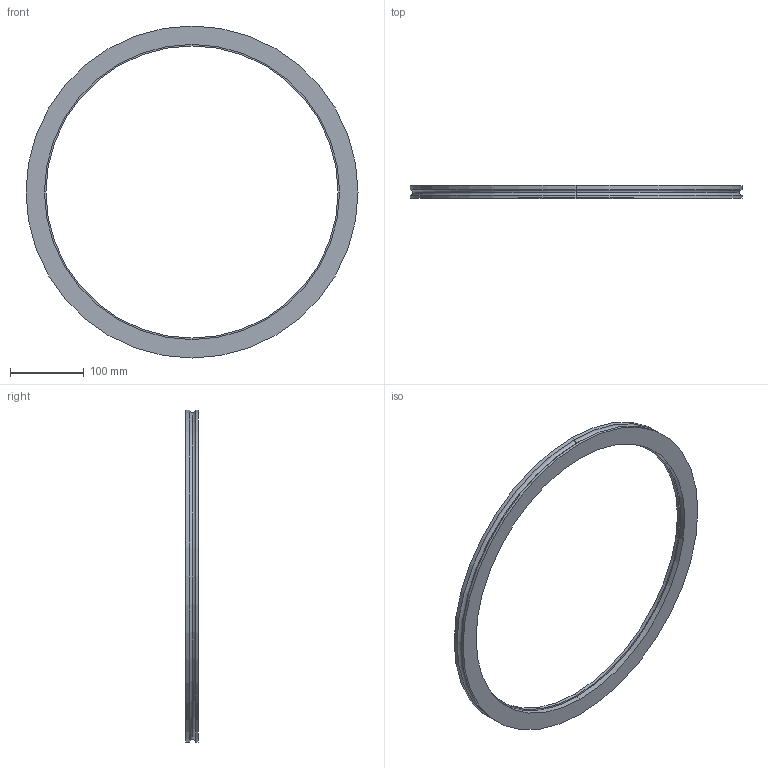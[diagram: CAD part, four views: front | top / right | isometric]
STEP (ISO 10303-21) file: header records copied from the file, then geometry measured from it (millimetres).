
FILE_DESCRIPTION (( 'STEP AP214' ), '1' );
FILE_NAME ('W4KL400.STEP', '2020-09-23T06:26:53', ( '' ), ( '' ), 'SwSTEP 2.0', 'SolidWorks 2020', '' );
FILE_SCHEMA (( 'AUTOMOTIVE_DESIGN' ));
Length unit declared in the file: millimetre
Products named in the file (1): W4KL400
Bounding box: 450 x 17 x 450 mm (x, y, z)
Volume: 468530.3 mm3; surface area: 123711.6 mm2
Topology: 1 solids, 1 shells, 21 faces, 42 edges, 26 vertices
Faces by surface type: cylinder 12, plane 5, torus 4
Entity records: 596 total; most frequent: DIRECTION 116, CARTESIAN_POINT 90, ORIENTED_EDGE 84, AXIS2_PLACEMENT_3D 52, EDGE_CURVE 42, CIRCLE 30, EDGE_LOOP 26, VERTEX_POINT 26
